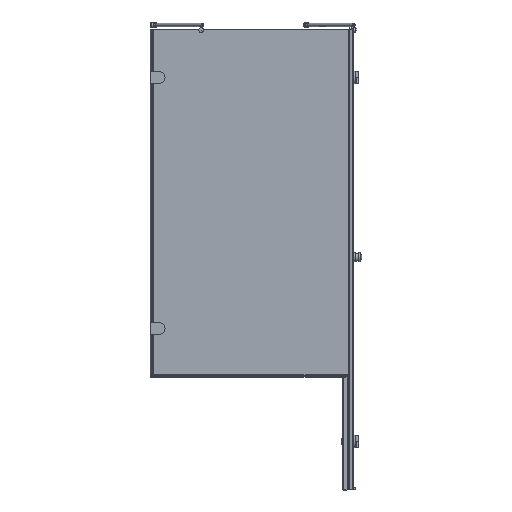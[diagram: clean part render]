
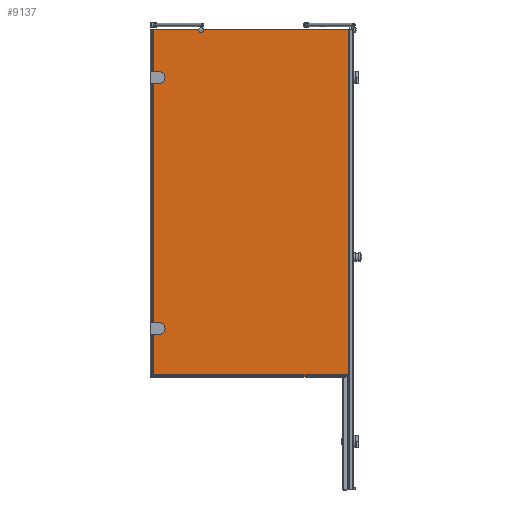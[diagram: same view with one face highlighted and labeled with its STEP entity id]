
A CAD part, front view. The second image highlights one B-rep face of the part: STEP entity #9137.
In plain terms, the highlighted planar face has unit normal (0, -1, 0).
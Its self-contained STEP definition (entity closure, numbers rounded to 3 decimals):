
#4021=CARTESIAN_POINT('',(387.019,50.956,211.944));
#4022=VERTEX_POINT('',#4021);
#4023=CARTESIAN_POINT('',(402.019,50.956,211.944));
#4024=VERTEX_POINT('',#4023);
#4025=CARTESIAN_POINT('',(387.019,50.956,211.944));
#4026=DIRECTION('',(1.0,0.0,0.0));
#4027=VECTOR('',#4026,15.0);
#4028=LINE('',#4025,#4027);
#4029=EDGE_CURVE('',#4022,#4024,#4028,.T.);
#4061=CARTESIAN_POINT('',(402.019,50.956,159.944));
#4062=VERTEX_POINT('',#4061);
#4063=CARTESIAN_POINT('',(402.019,50.956,185.944));
#4064=DIRECTION('',(0.0,1.0,0.0));
#4065=DIRECTION('',(0.0,0.0,1.0));
#4066=AXIS2_PLACEMENT_3D('',#4063,#4064,#4065);
#4067=CIRCLE('',#4066,26.0);
#4068=EDGE_CURVE('',#4024,#4062,#4067,.T.);
#4094=CARTESIAN_POINT('',(387.019,50.956,159.944));
#4095=VERTEX_POINT('',#4094);
#4096=CARTESIAN_POINT('',(402.019,50.956,159.944));
#4097=DIRECTION('',(-1.0,0.0,0.0));
#4098=VECTOR('',#4097,15.0);
#4099=LINE('',#4096,#4098);
#4100=EDGE_CURVE('',#4062,#4095,#4099,.T.);
#4125=CARTESIAN_POINT('',(387.019,50.956,159.944));
#4126=DIRECTION('',(0.0,0.0,1.0));
#4127=VECTOR('',#4126,52.0);
#4128=LINE('',#4125,#4127);
#4129=EDGE_CURVE('',#4095,#4022,#4128,.T.);
#5023=CARTESIAN_POINT('',(387.019,50.956,1301.944));
#5024=VERTEX_POINT('',#5023);
#5025=CARTESIAN_POINT('',(402.019,50.956,1301.944));
#5026=VERTEX_POINT('',#5025);
#5027=CARTESIAN_POINT('',(387.019,50.956,1301.944));
#5028=DIRECTION('',(1.0,0.0,0.0));
#5029=VECTOR('',#5028,15.0);
#5030=LINE('',#5027,#5029);
#5031=EDGE_CURVE('',#5024,#5026,#5030,.T.);
#5063=CARTESIAN_POINT('',(402.019,50.956,1249.944));
#5064=VERTEX_POINT('',#5063);
#5065=CARTESIAN_POINT('',(402.019,50.956,1275.944));
#5066=DIRECTION('',(0.0,1.0,0.0));
#5067=DIRECTION('',(0.0,0.0,1.0));
#5068=AXIS2_PLACEMENT_3D('',#5065,#5066,#5067);
#5069=CIRCLE('',#5068,26.0);
#5070=EDGE_CURVE('',#5026,#5064,#5069,.T.);
#5096=CARTESIAN_POINT('',(387.019,50.956,1249.944));
#5097=VERTEX_POINT('',#5096);
#5098=CARTESIAN_POINT('',(402.019,50.956,1249.944));
#5099=DIRECTION('',(-1.0,0.0,0.0));
#5100=VECTOR('',#5099,15.0);
#5101=LINE('',#5098,#5100);
#5102=EDGE_CURVE('',#5064,#5097,#5101,.T.);
#5127=CARTESIAN_POINT('',(387.019,50.956,1249.944));
#5128=DIRECTION('',(0.0,0.0,1.0));
#5129=VECTOR('',#5128,52.0);
#5130=LINE('',#5127,#5129);
#5131=EDGE_CURVE('',#5097,#5024,#5130,.T.);
#8465=CARTESIAN_POINT('',(576.493,50.956,1485.944));
#8466=VERTEX_POINT('',#8465);
#8473=CARTESIAN_POINT('',(594.353,50.956,1485.944));
#8474=VERTEX_POINT('',#8473);
#8475=CARTESIAN_POINT('',(585.423,50.956,1481.444));
#8476=DIRECTION('',(0.,1.0,0.));
#8477=DIRECTION('',(-0.597,0.,0.802));
#8478=AXIS2_PLACEMENT_3D('',#8475,#8476,#8477);
#8479=CIRCLE('',#8478,10.0);
#8480=EDGE_CURVE('',#8474,#8466,#8479,.T.);
#8999=CARTESIAN_POINT('',(1231.019,50.956,1485.944));
#9000=DIRECTION('',(0.0,-1.0,0.0));
#9001=DIRECTION('',(-1.0,0.0,0.0));
#9002=AXIS2_PLACEMENT_3D('',#8999,#9000,#9001);
#9003=PLANE('',#9002);
#9004=ORIENTED_EDGE('',*,*,#8480,.T.);
#9005=CARTESIAN_POINT('',(378.019,50.956,1485.944));
#9006=VERTEX_POINT('',#9005);
#9007=CARTESIAN_POINT('',(576.493,50.956,1485.944));
#9008=DIRECTION('',(-1.0,0.0,0.0));
#9009=VECTOR('',#9008,198.474);
#9010=LINE('',#9007,#9009);
#9011=EDGE_CURVE('',#8466,#9006,#9010,.T.);
#9012=ORIENTED_EDGE('',*,*,#9011,.T.);
#9013=CARTESIAN_POINT('',(378.019,50.956,-14.056));
#9014=VERTEX_POINT('',#9013);
#9015=CARTESIAN_POINT('',(378.019,50.956,1485.944));
#9016=DIRECTION('',(0.0,0.0,-1.0));
#9017=VECTOR('',#9016,1500.0);
#9018=LINE('',#9015,#9017);
#9019=EDGE_CURVE('',#9006,#9014,#9018,.T.);
#9020=ORIENTED_EDGE('',*,*,#9019,.T.);
#9021=CARTESIAN_POINT('',(375.462,50.956,-14.056));
#9022=VERTEX_POINT('',#9021);
#9023=CARTESIAN_POINT('',(378.019,50.956,-14.056));
#9024=DIRECTION('',(-1.0,0.0,0.0));
#9025=VECTOR('',#9024,2.557);
#9026=LINE('',#9023,#9025);
#9027=EDGE_CURVE('',#9014,#9022,#9026,.T.);
#9028=ORIENTED_EDGE('',*,*,#9027,.T.);
#9029=CARTESIAN_POINT('',(375.462,50.956,1485.944));
#9030=VERTEX_POINT('',#9029);
#9031=CARTESIAN_POINT('',(375.462,50.956,-14.056));
#9032=DIRECTION('',(0.0,0.0,1.0));
#9033=VECTOR('',#9032,1500.0);
#9034=LINE('',#9031,#9033);
#9035=EDGE_CURVE('',#9022,#9030,#9034,.T.);
#9036=ORIENTED_EDGE('',*,*,#9035,.T.);
#9037=CARTESIAN_POINT('',(373.019,50.956,1485.944));
#9038=VERTEX_POINT('',#9037);
#9039=CARTESIAN_POINT('',(375.462,50.956,1485.944));
#9040=DIRECTION('',(-1.0,0.0,0.0));
#9041=VECTOR('',#9040,2.443);
#9042=LINE('',#9039,#9041);
#9043=EDGE_CURVE('',#9030,#9038,#9042,.T.);
#9044=ORIENTED_EDGE('',*,*,#9043,.T.);
#9045=CARTESIAN_POINT('',(373.019,50.956,-14.056));
#9046=VERTEX_POINT('',#9045);
#9047=CARTESIAN_POINT('',(373.019,50.956,1485.944));
#9048=DIRECTION('',(0.0,0.0,-1.0));
#9049=VECTOR('',#9048,1500.0);
#9050=LINE('',#9047,#9049);
#9051=EDGE_CURVE('',#9038,#9046,#9050,.T.);
#9052=ORIENTED_EDGE('',*,*,#9051,.T.);
#9053=CARTESIAN_POINT('',(373.019,50.956,-15.915));
#9054=VERTEX_POINT('',#9053);
#9055=CARTESIAN_POINT('',(373.019,50.956,-14.056));
#9056=DIRECTION('',(0.0,0.0,-1.0));
#9057=VECTOR('',#9056,1.859);
#9058=LINE('',#9055,#9057);
#9059=EDGE_CURVE('',#9046,#9054,#9058,.T.);
#9060=ORIENTED_EDGE('',*,*,#9059,.T.);
#9061=CARTESIAN_POINT('',(1224.019,50.956,-15.915));
#9062=VERTEX_POINT('',#9061);
#9063=CARTESIAN_POINT('',(373.019,50.956,-15.915));
#9064=DIRECTION('',(1.0,0.0,0.0));
#9065=VECTOR('',#9064,851.);
#9066=LINE('',#9063,#9065);
#9067=EDGE_CURVE('',#9054,#9062,#9066,.T.);
#9068=ORIENTED_EDGE('',*,*,#9067,.T.);
#9069=CARTESIAN_POINT('',(1224.019,50.956,-16.677));
#9070=VERTEX_POINT('',#9069);
#9071=CARTESIAN_POINT('',(1224.019,50.956,-15.915));
#9072=DIRECTION('',(0.0,0.0,-1.0));
#9073=VECTOR('',#9072,0.762);
#9074=LINE('',#9071,#9073);
#9075=EDGE_CURVE('',#9062,#9070,#9074,.T.);
#9076=ORIENTED_EDGE('',*,*,#9075,.T.);
#9077=CARTESIAN_POINT('',(373.019,50.956,-16.677));
#9078=VERTEX_POINT('',#9077);
#9079=CARTESIAN_POINT('',(1224.019,50.956,-16.677));
#9080=DIRECTION('',(-1.0,0.0,0.0));
#9081=VECTOR('',#9080,851.);
#9082=LINE('',#9079,#9081);
#9083=EDGE_CURVE('',#9070,#9078,#9082,.T.);
#9084=ORIENTED_EDGE('',*,*,#9083,.T.);
#9085=CARTESIAN_POINT('',(373.019,50.956,-24.056));
#9086=VERTEX_POINT('',#9085);
#9087=CARTESIAN_POINT('',(373.019,50.956,-16.677));
#9088=DIRECTION('',(0.0,0.0,-1.0));
#9089=VECTOR('',#9088,7.379);
#9090=LINE('',#9087,#9089);
#9091=EDGE_CURVE('',#9078,#9086,#9090,.T.);
#9092=ORIENTED_EDGE('',*,*,#9091,.T.);
#9093=CARTESIAN_POINT('',(1224.019,50.956,-24.056));
#9094=VERTEX_POINT('',#9093);
#9095=CARTESIAN_POINT('',(1224.019,50.956,-24.056));
#9096=DIRECTION('',(-1.0,0.0,0.0));
#9097=VECTOR('',#9096,851.);
#9098=LINE('',#9095,#9097);
#9099=EDGE_CURVE('',#9094,#9086,#9098,.T.);
#9100=ORIENTED_EDGE('',*,*,#9099,.F.);
#9101=CARTESIAN_POINT('',(1231.019,50.956,-24.056));
#9102=VERTEX_POINT('',#9101);
#9103=CARTESIAN_POINT('',(1231.019,50.956,-24.056));
#9104=DIRECTION('',(-1.0,0.0,0.0));
#9105=VECTOR('',#9104,7.);
#9106=LINE('',#9103,#9105);
#9107=EDGE_CURVE('',#9102,#9094,#9106,.T.);
#9108=ORIENTED_EDGE('',*,*,#9107,.F.);
#9109=CARTESIAN_POINT('',(1231.019,50.956,1485.944));
#9110=VERTEX_POINT('',#9109);
#9111=CARTESIAN_POINT('',(1231.019,50.956,1485.944));
#9112=DIRECTION('',(0.0,0.0,-1.0));
#9113=VECTOR('',#9112,1510.0);
#9114=LINE('',#9111,#9113);
#9115=EDGE_CURVE('',#9110,#9102,#9114,.T.);
#9116=ORIENTED_EDGE('',*,*,#9115,.F.);
#9117=CARTESIAN_POINT('',(1231.019,50.956,1485.944));
#9118=DIRECTION('',(-1.0,0.0,0.0));
#9119=VECTOR('',#9118,636.666);
#9120=LINE('',#9117,#9119);
#9121=EDGE_CURVE('',#9110,#8474,#9120,.T.);
#9122=ORIENTED_EDGE('',*,*,#9121,.T.);
#9123=EDGE_LOOP('',(#9004,#9012,#9020,#9028,#9036,#9044,#9052,#9060,#9068,#9076,#9084,#9092,#9100,#9108,#9116,#9122));
#9124=FACE_OUTER_BOUND('',#9123,.T.);
#9125=ORIENTED_EDGE('',*,*,#4029,.T.);
#9126=ORIENTED_EDGE('',*,*,#4068,.T.);
#9127=ORIENTED_EDGE('',*,*,#4100,.T.);
#9128=ORIENTED_EDGE('',*,*,#4129,.T.);
#9129=EDGE_LOOP('',(#9125,#9126,#9127,#9128));
#9130=FACE_BOUND('',#9129,.T.);
#9131=ORIENTED_EDGE('',*,*,#5031,.T.);
#9132=ORIENTED_EDGE('',*,*,#5070,.T.);
#9133=ORIENTED_EDGE('',*,*,#5102,.T.);
#9134=ORIENTED_EDGE('',*,*,#5131,.T.);
#9135=EDGE_LOOP('',(#9131,#9132,#9133,#9134));
#9136=FACE_BOUND('',#9135,.T.);
#9137=ADVANCED_FACE('',(#9124,#9130,#9136),#9003,.T.);
